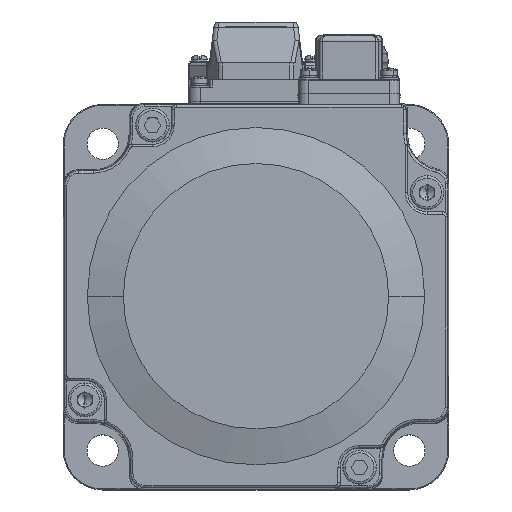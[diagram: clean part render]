
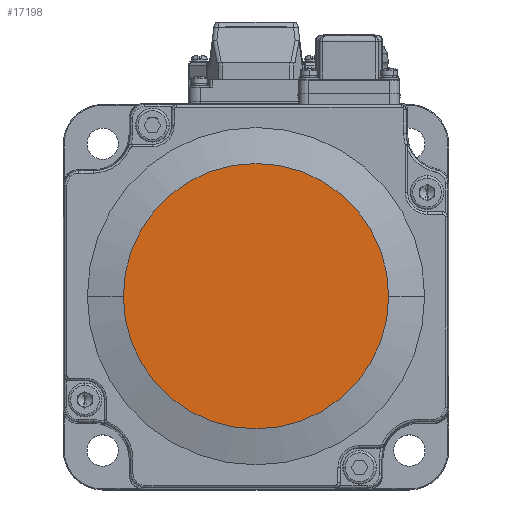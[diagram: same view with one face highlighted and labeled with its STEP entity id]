
A CAD part, top view. The second image highlights one B-rep face of the part: STEP entity #17198.
In plain terms, the highlighted planar face has unit normal (0, 0, 1).
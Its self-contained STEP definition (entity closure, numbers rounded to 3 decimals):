
#333 = PLANE ( 'NONE',  #43761 ) ;
#2324 = CARTESIAN_POINT ( 'NONE',  ( 34.477, -214.969, 95.979 ) ) ;
#3182 = CIRCLE ( 'NONE', #26461, 27.536 ) ;
#7084 = CARTESIAN_POINT ( 'NONE',  ( 34.477, -214.969, 95.979 ) ) ;
#14503 = DIRECTION ( 'NONE',  ( 0., 0., 1. ) ) ;
#15751 = DIRECTION ( 'NONE',  ( 0., 0., 1. ) ) ;
#17198 = ADVANCED_FACE ( 'NONE', ( #37386 ), #333, .T. ) ;
#19604 = VERTEX_POINT ( 'NONE', #38002 ) ;
#20200 = CIRCLE ( 'NONE', #22791, 27.536 ) ;
#22791 = AXIS2_PLACEMENT_3D ( 'NONE', #7084, #15751, #36017 ) ;
#22839 = ORIENTED_EDGE ( 'NONE', *, *, #44207, .T. ) ;
#26461 = AXIS2_PLACEMENT_3D ( 'NONE', #2324, #14503, #43667 ) ;
#32813 = DIRECTION ( 'NONE',  ( 1., 0., 0. ) ) ;
#33329 = CARTESIAN_POINT ( 'NONE',  ( 34.477, -214.969, 95.979 ) ) ;
#33840 = ORIENTED_EDGE ( 'NONE', *, *, #41037, .T. ) ;
#36017 = DIRECTION ( 'NONE',  ( 1., 0., 0. ) ) ;
#37386 = FACE_OUTER_BOUND ( 'NONE', #49048, .T. ) ;
#38002 = CARTESIAN_POINT ( 'NONE',  ( 62.013, -214.969, 95.979 ) ) ;
#41037 = EDGE_CURVE ( 'NONE', #44297, #19604, #20200, .T. ) ;
#43667 = DIRECTION ( 'NONE',  ( 1., 0., 0. ) ) ;
#43761 = AXIS2_PLACEMENT_3D ( 'NONE', #33329, #53339, #32813 ) ;
#44207 = EDGE_CURVE ( 'NONE', #19604, #44297, #3182, .T. ) ;
#44297 = VERTEX_POINT ( 'NONE', #52634 ) ;
#49048 = EDGE_LOOP ( 'NONE', ( #22839, #33840 ) ) ;
#52634 = CARTESIAN_POINT ( 'NONE',  ( 6.942, -214.969, 95.979 ) ) ;
#53339 = DIRECTION ( 'NONE',  ( 0., 0., 1. ) ) ;
